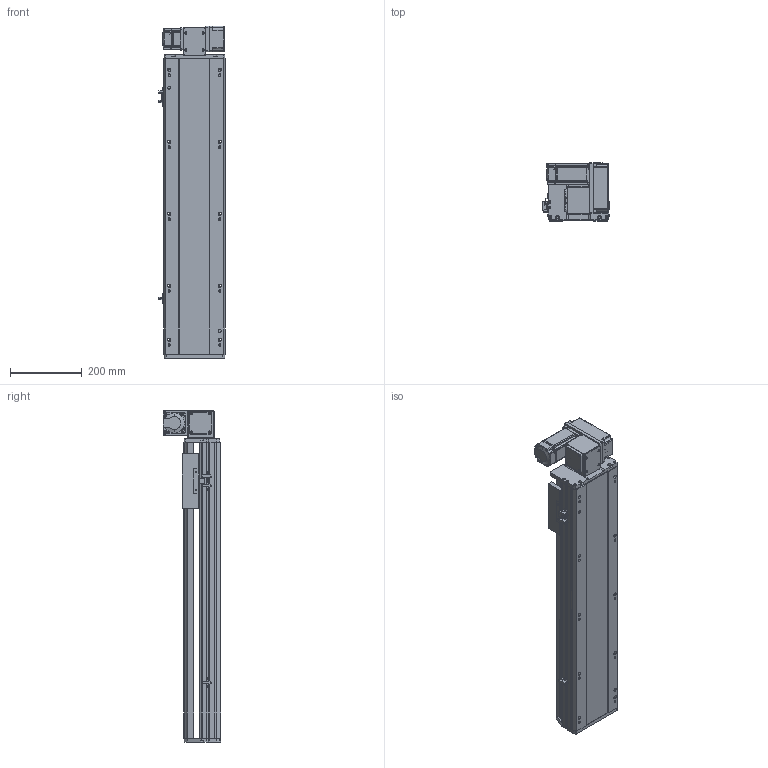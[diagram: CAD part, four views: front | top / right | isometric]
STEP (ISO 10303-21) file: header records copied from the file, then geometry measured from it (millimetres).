
FILE_DESCRIPTION (( 'STEP AP214' ), '1' );
FILE_NAME ('RTB17S-XX-550-RW-M40-C4.STEP', '2025-12-11T08:50:56', ( '' ), ( '' ), 'SwSTEP 2.0', 'SolidWorks 2018', '' );
FILE_SCHEMA (( 'AUTOMOTIVE_DESIGN' ));
Length unit declared in the file: millimetre
Products named in the file (14): RTB17S-L-001耜醱啣^RTB17S-XX-XX-RW-M40-C4; RMP17S-L-014-T20--々湍釱^RTB17S-RW-々湍釱蚾饜-400W_RTB17S-XX-XX-RW-M40-C4; OMRON EE-SX672 传感器^RTB17S-XX-XX-RW-M40-C4; RTB14-L-005P--轴承塑胶压盖^RTB17S-RW-皮带座装配-400W_RTB17S-XX-XX-RW-M40-C4; RTH13-BL-012覜茼え俋离^RTB17S-XX-XX-RW-M40-C4; RTB17-R-011菁釱^RTB17S-XX-XX-RW-M40-C4; RTB14-L-017P^RTB17S-RW-々湍釱蚾饜-400W_RTB17S-XX-XX-RW-M40-C4; 400W侜督萇儂^RTB17S-XX-XX-RW-M40-C4; RTB17S-RW-々湍釱蚾饜-400W^RTB17S-XX-XX-RW-M40-C4; RTB14-L-018P^RTB17S-RW-々湍釱蚾饜-400W_RTB17S-XX-XX-RW-M40-C4; RTB14-L-008-M20--萇儂啣^RTB17S-RW-々湍釱蚾饜-400W_RTB17S-XX-XX-RW-M40-C4; RTB17S-L-004佪裝蹟譫蟀諉釱^RTB17S-XX-XX-RW-M40-C4; RTB17S-L-007奻裔^RTB17S-XX-XX-RW-M40-C4; RTB17S-XX-550-RW-M40-C4
Assembly tree (16 placements, depth 3):
  RTB17S-XX-550-RW-M40-C4
    RTB17-R-011菁釱^RTB17S-XX-XX-RW-M40-C4
    RTB17S-L-007奻裔^RTB17S-XX-XX-RW-M40-C4
    OMRON EE-SX672 传感器^RTB17S-XX-XX-RW-M40-C4  x3
    RTB17S-L-001耜醱啣^RTB17S-XX-XX-RW-M40-C4
    400W侜督萇儂^RTB17S-XX-XX-RW-M40-C4
    RTB17S-L-004佪裝蹟譫蟀諉釱^RTB17S-XX-XX-RW-M40-C4
    RTH13-BL-012覜茼え俋离^RTB17S-XX-XX-RW-M40-C4
    RTB17S-RW-々湍釱蚾饜-400W^RTB17S-XX-XX-RW-M40-C4
      RMP17S-L-014-T20--々湍釱^RTB17S-RW-々湍釱蚾饜-400W_RTB17S-XX-XX-RW-M40-C4
      RTB14-L-005P--轴承塑胶压盖^RTB17S-RW-皮带座装配-400W_RTB17S-XX-XX-RW-M40-C4
      RTB14-L-008-M20--萇儂啣^RTB17S-RW-々湍釱蚾饜-400W_RTB17S-XX-XX-RW-M40-C4
      RTB14-L-017P^RTB17S-RW-々湍釱蚾饜-400W_RTB17S-XX-XX-RW-M40-C4  x2
      RTB14-L-018P^RTB17S-RW-々湍釱蚾饜-400W_RTB17S-XX-XX-RW-M40-C4
Bounding box: 183.5 x 160.5 x 922.5 mm (x, y, z)
Volume: 8704659.7 mm3; surface area: 1097883.7 mm2
Topology: 15 solids, 15 shells, 2173 faces, 5979 edges, 3897 vertices
Faces by surface type: plane 1064, cylinder 661, bspline 301, cone 139, torus 8
Entity records: 61097 total; most frequent: CARTESIAN_POINT 16984, ORIENTED_EDGE 8802, DIRECTION 8216, EDGE_CURVE 4401, VERTEX_POINT 2885, AXIS2_PLACEMENT_3D 2815, LINE 2586, VECTOR 2586
